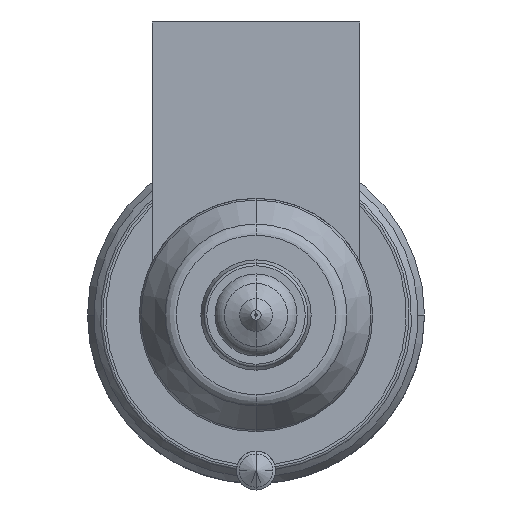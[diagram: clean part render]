
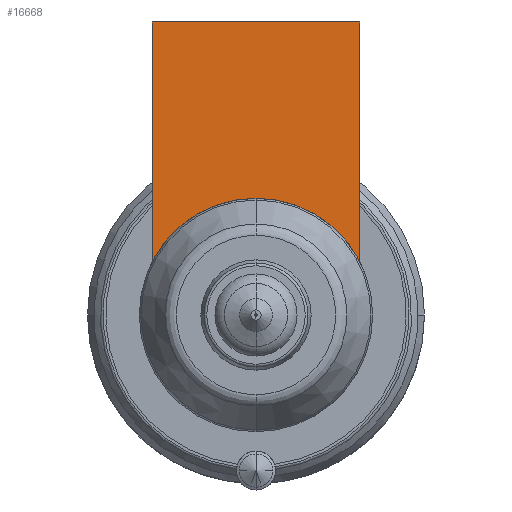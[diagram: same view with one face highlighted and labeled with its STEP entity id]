
A CAD part, front view. The second image highlights one B-rep face of the part: STEP entity #16668.
In plain terms, the highlighted planar face has unit normal (0, -1, 0).
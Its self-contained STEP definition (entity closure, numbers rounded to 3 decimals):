
#15244=DIRECTION('',(0.,0.,-1.));
#15245=VECTOR('',#15244,18.481);
#15246=CARTESIAN_POINT('',(-8.,-54.,22.604));
#15247=LINE('',#15246,#15245);
#15848=CARTESIAN_POINT('',(0.,-54.,0.));
#15849=DIRECTION('',(0.,-1.,0.));
#15850=DIRECTION('',(0.,0.,1.));
#15851=AXIS2_PLACEMENT_3D('',#15848,#15849,#15850);
#15856=DIRECTION('',(1.,0.,0.));
#15857=VECTOR('',#15856,16.);
#15858=CARTESIAN_POINT('',(-8.,-54.,22.604));
#15859=LINE('',#15858,#15857);
#15863=CARTESIAN_POINT('',(0.,-54.,0.));
#15864=DIRECTION('',(0.,-1.,0.));
#15865=DIRECTION('',(0.889,0.,0.458));
#15866=AXIS2_PLACEMENT_3D('',#15863,#15864,#15865);
#15949=DIRECTION('',(0.,0.,-1.));
#15950=VECTOR('',#15949,18.481);
#15951=CARTESIAN_POINT('',(8.,-54.,22.604));
#15952=LINE('',#15951,#15950);
#16054=CARTESIAN_POINT('',(-8.,-54.,22.604));
#16055=VERTEX_POINT('',#16054);
#16060=CARTESIAN_POINT('',(8.,-54.,22.604));
#16061=VERTEX_POINT('',#16060);
#16063=CARTESIAN_POINT('',(-8.,-54.,4.123));
#16065=VERTEX_POINT('',#16063);
#16067=CARTESIAN_POINT('',(8.,-54.,4.123));
#16069=VERTEX_POINT('',#16067);
#16070=CARTESIAN_POINT('',(0.,-54.,9.));
#16071=VERTEX_POINT('',#16070);
#16654=CARTESIAN_POINT('',(-8.,-54.,22.604));
#16655=DIRECTION('',(0.,-1.,0.));
#16656=DIRECTION('',(0.,0.,-1.));
#16657=AXIS2_PLACEMENT_3D('',#16654,#16655,#16656);
#16658=PLANE('',#16657);
#16659=ORIENTED_EDGE('',*,*,#16111,.T.);
#16660=ORIENTED_EDGE('',*,*,#16094,.F.);
#16662=ORIENTED_EDGE('',*,*,#16661,.T.);
#16664=ORIENTED_EDGE('',*,*,#16663,.T.);
#16665=ORIENTED_EDGE('',*,*,#16159,.T.);
#16666=EDGE_LOOP('',(#16659,#16660,#16662,#16664,#16665));
#16667=FACE_OUTER_BOUND('',#16666,.F.);
#16668=ADVANCED_FACE('',(#16667),#16658,.T.);
#15852=CIRCLE('',#15851,9.);
#15867=CIRCLE('',#15866,9.);
#16094=EDGE_CURVE('',#16055,#16065,#15247,.T.);
#16111=EDGE_CURVE('',#16071,#16065,#15852,.T.);
#16159=EDGE_CURVE('',#16069,#16071,#15867,.T.);
#16661=EDGE_CURVE('',#16055,#16061,#15859,.T.);
#16663=EDGE_CURVE('',#16061,#16069,#15952,.T.);
